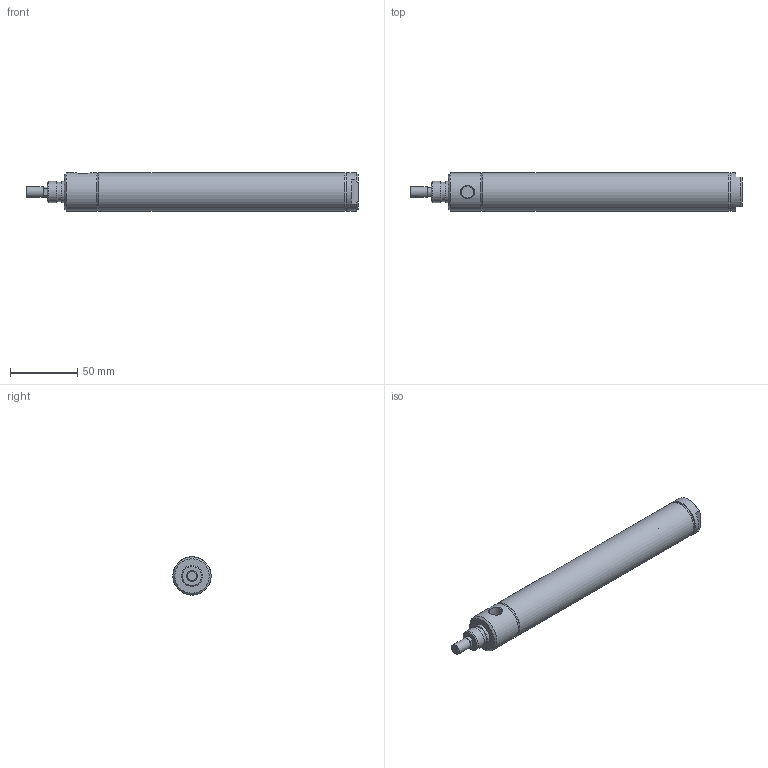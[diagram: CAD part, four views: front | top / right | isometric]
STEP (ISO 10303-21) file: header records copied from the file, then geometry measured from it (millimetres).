
FILE_DESCRIPTION( ( 'STEP AP214' ), '1' );
FILE_NAME( 'p:/temp/worker_467/temp/exporttempdir_4664_176_uSrWJ/format_0/1062D01-06A.stp', '2020-05-07T14:49:09', ( 'License CC BY-ND 4.0' ), ( 'CADENAS' ), ' ', 'PARTsolutions', ' ' );
FILE_SCHEMA( ( 'AUTOMOTIVE_DESIGN { 1 0 10303 214 1 1 1 1 }' ) );
Length unit declared in the file: inch
Products named in the file (3): 1062D01-06A; _1062D01-06A-001062D01-06A-0000A00A0b; _1062D01-06A-001062D01-06A-0000A00A0r
Assembly tree (2 placements, depth 2):
  1062D01-06A
    _1062D01-06A-001062D01-06A-0000A00A0b
    _1062D01-06A-001062D01-06A-0000A00A0r
Bounding box: 247.65 x 28.57 x 28.57 mm (x, y, z)
Volume: 60693.1 mm3; surface area: 48538.1 mm2
Topology: 2 solids, 2 shells, 51 faces, 99 edges, 62 vertices
Faces by surface type: plane 26, cone 13, cylinder 12
Full cylindrical faces by diameter (mm): 7.938 x1, 7.95 x3, 14.196 x1, 15.85 x1, 15.875 x1, 26.987 x2, 28.397 x1, 28.575 x2
Entity records: 1700 total; most frequent: CARTESIAN_POINT 278, DIRECTION 220, ORIENTED_EDGE 148, AXIS2_PLACEMENT_3D 100, EDGE_LOOP 82, EDGE_CURVE 74, FACE_OUTER_BOUND 63, VERTEX_POINT 58
